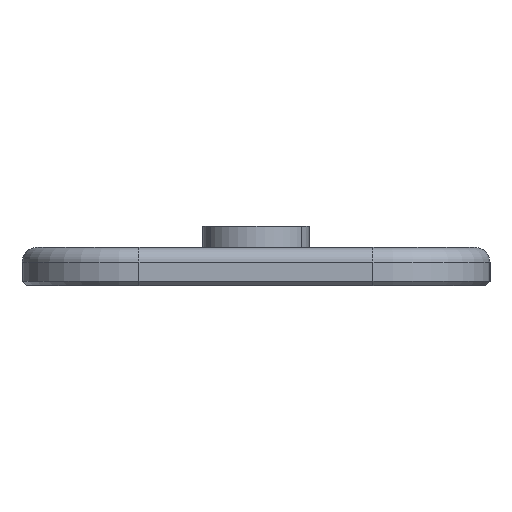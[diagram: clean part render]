
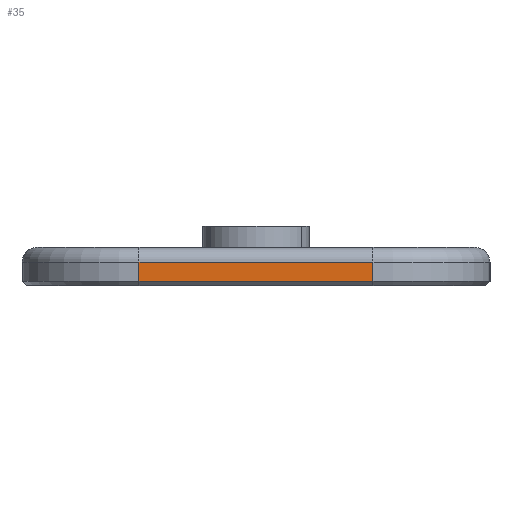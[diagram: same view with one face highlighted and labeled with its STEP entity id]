
A CAD part, left-side view. The second image highlights one B-rep face of the part: STEP entity #35.
In plain terms, the highlighted planar face has unit normal (-1, 0, 0).
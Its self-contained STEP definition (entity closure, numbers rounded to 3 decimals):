
#35 = ADVANCED_FACE('',(#36),#50,.T.);
#36 = FACE_BOUND('',#37,.T.);
#37 = EDGE_LOOP('',(#38,#73,#101,#129));
#38 = ORIENTED_EDGE('',*,*,#39,.T.);
#39 = EDGE_CURVE('',#40,#42,#44,.T.);
#40 = VERTEX_POINT('',#41);
#41 = CARTESIAN_POINT('',(-177.,-5.5,0.2));
#42 = VERTEX_POINT('',#43);
#43 = CARTESIAN_POINT('',(-177.,-5.5,1.1));
#44 = SURFACE_CURVE('',#45,(#49,#61),.PCURVE_S1.);
#45 = LINE('',#46,#47);
#46 = CARTESIAN_POINT('',(-177.,-5.5,0.));
#47 = VECTOR('',#48,1.);
#48 = DIRECTION('',(0.,0.,1.));
#49 = PCURVE('',#50,#55);
#50 = PLANE('',#51);
#51 = AXIS2_PLACEMENT_3D('',#52,#53,#54);
#52 = CARTESIAN_POINT('',(-177.,-5.5,0.));
#53 = DIRECTION('',(-1.,0.,0.));
#54 = DIRECTION('',(0.,1.,0.));
#55 = DEFINITIONAL_REPRESENTATION('',(#56),#60);
#56 = LINE('',#57,#58);
#57 = CARTESIAN_POINT('',(0.,0.));
#58 = VECTOR('',#59,1.);
#59 = DIRECTION('',(0.,-1.));
#60 = ( GEOMETRIC_REPRESENTATION_CONTEXT(2) 
PARAMETRIC_REPRESENTATION_CONTEXT() REPRESENTATION_CONTEXT('2D SPACE',''
  ) );
#61 = PCURVE('',#62,#67);
#62 = CYLINDRICAL_SURFACE('',#63,5.5);
#63 = AXIS2_PLACEMENT_3D('',#64,#65,#66);
#64 = CARTESIAN_POINT('',(-171.5,-5.5,0.));
#65 = DIRECTION('',(0.,0.,-1.));
#66 = DIRECTION('',(-1.,0.,0.));
#67 = DEFINITIONAL_REPRESENTATION('',(#68),#72);
#68 = LINE('',#69,#70);
#69 = CARTESIAN_POINT('',(6.283,0.));
#70 = VECTOR('',#71,1.);
#71 = DIRECTION('',(0.,-1.));
#72 = ( GEOMETRIC_REPRESENTATION_CONTEXT(2) 
PARAMETRIC_REPRESENTATION_CONTEXT() REPRESENTATION_CONTEXT('2D SPACE',''
  ) );
#73 = ORIENTED_EDGE('',*,*,#74,.T.);
#74 = EDGE_CURVE('',#42,#75,#77,.T.);
#75 = VERTEX_POINT('',#76);
#76 = CARTESIAN_POINT('',(-177.,5.5,1.1));
#77 = SURFACE_CURVE('',#78,(#82,#89),.PCURVE_S1.);
#78 = LINE('',#79,#80);
#79 = CARTESIAN_POINT('',(-177.,-5.5,1.1));
#80 = VECTOR('',#81,1.);
#81 = DIRECTION('',(0.,1.,0.));
#82 = PCURVE('',#50,#83);
#83 = DEFINITIONAL_REPRESENTATION('',(#84),#88);
#84 = LINE('',#85,#86);
#85 = CARTESIAN_POINT('',(0.,-1.1));
#86 = VECTOR('',#87,1.);
#87 = DIRECTION('',(1.,0.));
#88 = ( GEOMETRIC_REPRESENTATION_CONTEXT(2) 
PARAMETRIC_REPRESENTATION_CONTEXT() REPRESENTATION_CONTEXT('2D SPACE',''
  ) );
#89 = PCURVE('',#90,#95);
#90 = CYLINDRICAL_SURFACE('',#91,0.7);
#91 = AXIS2_PLACEMENT_3D('',#92,#93,#94);
#92 = CARTESIAN_POINT('',(-176.3,-5.5,1.1));
#93 = DIRECTION('',(0.,1.,0.));
#94 = DIRECTION('',(-1.,0.,0.));
#95 = DEFINITIONAL_REPRESENTATION('',(#96),#100);
#96 = LINE('',#97,#98);
#97 = CARTESIAN_POINT('',(0.,0.));
#98 = VECTOR('',#99,1.);
#99 = DIRECTION('',(0.,1.));
#100 = ( GEOMETRIC_REPRESENTATION_CONTEXT(2) 
PARAMETRIC_REPRESENTATION_CONTEXT() REPRESENTATION_CONTEXT('2D SPACE',''
  ) );
#101 = ORIENTED_EDGE('',*,*,#102,.F.);
#102 = EDGE_CURVE('',#103,#75,#105,.T.);
#103 = VERTEX_POINT('',#104);
#104 = CARTESIAN_POINT('',(-177.,5.5,0.2));
#105 = SURFACE_CURVE('',#106,(#110,#117),.PCURVE_S1.);
#106 = LINE('',#107,#108);
#107 = CARTESIAN_POINT('',(-177.,5.5,0.));
#108 = VECTOR('',#109,1.);
#109 = DIRECTION('',(0.,0.,1.));
#110 = PCURVE('',#50,#111);
#111 = DEFINITIONAL_REPRESENTATION('',(#112),#116);
#112 = LINE('',#113,#114);
#113 = CARTESIAN_POINT('',(11.,0.));
#114 = VECTOR('',#115,1.);
#115 = DIRECTION('',(0.,-1.));
#116 = ( GEOMETRIC_REPRESENTATION_CONTEXT(2) 
PARAMETRIC_REPRESENTATION_CONTEXT() REPRESENTATION_CONTEXT('2D SPACE',''
  ) );
#117 = PCURVE('',#118,#123);
#118 = CYLINDRICAL_SURFACE('',#119,5.5);
#119 = AXIS2_PLACEMENT_3D('',#120,#121,#122);
#120 = CARTESIAN_POINT('',(-171.5,5.5,0.));
#121 = DIRECTION('',(0.,0.,-1.));
#122 = DIRECTION('',(-1.,0.,0.));
#123 = DEFINITIONAL_REPRESENTATION('',(#124),#128);
#124 = LINE('',#125,#126);
#125 = CARTESIAN_POINT('',(0.,0.));
#126 = VECTOR('',#127,1.);
#127 = DIRECTION('',(0.,-1.));
#128 = ( GEOMETRIC_REPRESENTATION_CONTEXT(2) 
PARAMETRIC_REPRESENTATION_CONTEXT() REPRESENTATION_CONTEXT('2D SPACE',''
  ) );
#129 = ORIENTED_EDGE('',*,*,#130,.F.);
#130 = EDGE_CURVE('',#40,#103,#131,.T.);
#131 = SURFACE_CURVE('',#132,(#136,#143),.PCURVE_S1.);
#132 = LINE('',#133,#134);
#133 = CARTESIAN_POINT('',(-177.,-5.5,0.2));
#134 = VECTOR('',#135,1.);
#135 = DIRECTION('',(0.,1.,0.));
#136 = PCURVE('',#50,#137);
#137 = DEFINITIONAL_REPRESENTATION('',(#138),#142);
#138 = LINE('',#139,#140);
#139 = CARTESIAN_POINT('',(0.,-0.2));
#140 = VECTOR('',#141,1.);
#141 = DIRECTION('',(1.,0.));
#142 = ( GEOMETRIC_REPRESENTATION_CONTEXT(2) 
PARAMETRIC_REPRESENTATION_CONTEXT() REPRESENTATION_CONTEXT('2D SPACE',''
  ) );
#143 = PCURVE('',#144,#149);
#144 = PLANE('',#145);
#145 = AXIS2_PLACEMENT_3D('',#146,#147,#148);
#146 = CARTESIAN_POINT('',(-176.9,-5.5,0.1));
#147 = DIRECTION('',(0.707,0.,0.707)
  );
#148 = DIRECTION('',(0.,-1.,0.));
#149 = DEFINITIONAL_REPRESENTATION('',(#150),#154);
#150 = LINE('',#151,#152);
#151 = CARTESIAN_POINT('',(-0.,-0.141));
#152 = VECTOR('',#153,1.);
#153 = DIRECTION('',(-1.,0.));
#154 = ( GEOMETRIC_REPRESENTATION_CONTEXT(2) 
PARAMETRIC_REPRESENTATION_CONTEXT() REPRESENTATION_CONTEXT('2D SPACE',''
  ) );
